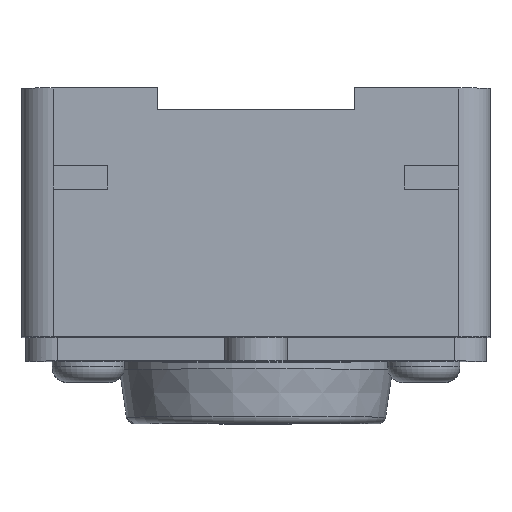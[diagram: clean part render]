
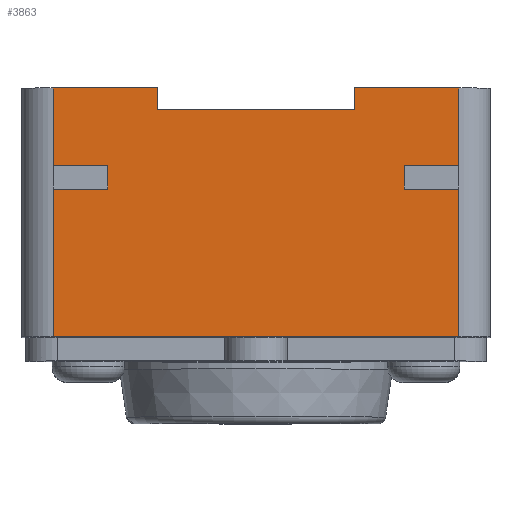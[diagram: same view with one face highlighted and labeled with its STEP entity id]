
A CAD part, top view. The second image highlights one B-rep face of the part: STEP entity #3863.
In plain terms, the highlighted planar face has unit normal (0, 0, 1).
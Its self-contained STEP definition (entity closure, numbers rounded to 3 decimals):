
#3058=DIRECTION('',(-1.,0.,0.));
#3059=VECTOR('',#3058,1.335);
#3060=CARTESIAN_POINT('',(2.6,3.5,3.));
#3061=LINE('',#3060,#3059);
#3127=DIRECTION('',(-1.,0.,0.));
#3128=VECTOR('',#3127,2.53);
#3129=CARTESIAN_POINT('',(1.265,3.23,3.));
#3130=LINE('',#3129,#3128);
#3151=DIRECTION('',(0.,-1.,0.));
#3152=VECTOR('',#3151,0.27);
#3153=CARTESIAN_POINT('',(1.265,3.5,3.));
#3154=LINE('',#3153,#3152);
#3155=DIRECTION('',(0.,-1.,0.));
#3156=VECTOR('',#3155,1.);
#3157=CARTESIAN_POINT('',(2.6,3.5,3.));
#3158=LINE('',#3157,#3156);
#3159=DIRECTION('',(1.,0.,0.));
#3160=VECTOR('',#3159,0.7);
#3161=CARTESIAN_POINT('',(1.9,2.2,3.));
#3162=LINE('',#3161,#3160);
#3163=DIRECTION('',(0.,-1.,0.));
#3164=VECTOR('',#3163,1.89);
#3165=CARTESIAN_POINT('',(2.6,2.2,3.));
#3166=LINE('',#3165,#3164);
#3167=DIRECTION('',(-1.,0.,0.));
#3168=VECTOR('',#3167,5.2);
#3169=CARTESIAN_POINT('',(2.6,0.31,3.));
#3170=LINE('',#3169,#3168);
#3171=DIRECTION('',(1.,0.,0.));
#3172=VECTOR('',#3171,0.7);
#3173=CARTESIAN_POINT('',(-2.6,2.5,3.));
#3174=LINE('',#3173,#3172);
#3175=DIRECTION('',(0.,-1.,0.));
#3176=VECTOR('',#3175,0.3);
#3177=CARTESIAN_POINT('',(-1.9,2.5,3.));
#3178=LINE('',#3177,#3176);
#3183=DIRECTION('',(-1.,0.,0.));
#3184=VECTOR('',#3183,0.7);
#3185=CARTESIAN_POINT('',(-1.9,2.2,3.));
#3186=LINE('',#3185,#3184);
#3203=DIRECTION('',(0.,-1.,0.));
#3204=VECTOR('',#3203,1.89);
#3205=CARTESIAN_POINT('',(-2.6,2.2,3.));
#3206=LINE('',#3205,#3204);
#3207=DIRECTION('',(0.,-1.,0.));
#3208=VECTOR('',#3207,1.);
#3209=CARTESIAN_POINT('',(-2.6,3.5,3.));
#3210=LINE('',#3209,#3208);
#3249=DIRECTION('',(0.,1.,0.));
#3250=VECTOR('',#3249,0.3);
#3251=CARTESIAN_POINT('',(1.9,2.2,3.));
#3252=LINE('',#3251,#3250);
#3265=DIRECTION('',(1.,0.,0.));
#3266=VECTOR('',#3265,0.7);
#3267=CARTESIAN_POINT('',(1.9,2.5,3.));
#3268=LINE('',#3267,#3266);
#3362=DIRECTION('',(-1.,0.,0.));
#3363=VECTOR('',#3362,1.335);
#3364=CARTESIAN_POINT('',(-1.265,3.5,3.));
#3365=LINE('',#3364,#3363);
#3379=DIRECTION('',(0.,1.,0.));
#3380=VECTOR('',#3379,0.27);
#3381=CARTESIAN_POINT('',(-1.265,3.23,3.));
#3382=LINE('',#3381,#3380);
#3572=CARTESIAN_POINT('',(2.6,0.31,3.));
#3574=VERTEX_POINT('',#3572);
#3585=CARTESIAN_POINT('',(-2.6,0.31,3.));
#3587=VERTEX_POINT('',#3585);
#3590=CARTESIAN_POINT('',(2.6,2.5,3.));
#3591=CARTESIAN_POINT('',(2.6,2.2,3.));
#3592=VERTEX_POINT('',#3590);
#3593=VERTEX_POINT('',#3591);
#3594=CARTESIAN_POINT('',(2.6,3.5,3.));
#3595=VERTEX_POINT('',#3594);
#3602=CARTESIAN_POINT('',(-2.6,2.5,3.));
#3603=CARTESIAN_POINT('',(-1.9,2.5,3.));
#3604=VERTEX_POINT('',#3602);
#3605=VERTEX_POINT('',#3603);
#3606=CARTESIAN_POINT('',(1.265,3.23,3.));
#3607=CARTESIAN_POINT('',(-1.265,3.23,3.));
#3608=VERTEX_POINT('',#3606);
#3609=VERTEX_POINT('',#3607);
#3610=CARTESIAN_POINT('',(1.265,3.5,3.));
#3611=VERTEX_POINT('',#3610);
#3612=CARTESIAN_POINT('',(1.9,2.2,3.));
#3613=VERTEX_POINT('',#3612);
#3616=CARTESIAN_POINT('',(-1.9,2.2,3.));
#3617=VERTEX_POINT('',#3616);
#3620=CARTESIAN_POINT('',(-2.6,2.2,3.));
#3621=VERTEX_POINT('',#3620);
#3628=CARTESIAN_POINT('',(-2.6,3.5,3.));
#3629=VERTEX_POINT('',#3628);
#3678=CARTESIAN_POINT('',(-1.265,3.5,3.));
#3679=VERTEX_POINT('',#3678);
#3680=CARTESIAN_POINT('',(1.9,2.5,3.));
#3681=VERTEX_POINT('',#3680);
#3827=CARTESIAN_POINT('',(0.,1.905,3.));
#3828=DIRECTION('',(0.,0.,1.));
#3829=DIRECTION('',(1.,0.,0.));
#3830=AXIS2_PLACEMENT_3D('',#3827,#3828,#3829);
#3831=PLANE('',#3830);
#3833=ORIENTED_EDGE('',*,*,#3832,.F.);
#3835=ORIENTED_EDGE('',*,*,#3834,.F.);
#3837=ORIENTED_EDGE('',*,*,#3836,.F.);
#3839=ORIENTED_EDGE('',*,*,#3838,.F.);
#3840=ORIENTED_EDGE('',*,*,#3797,.F.);
#3841=ORIENTED_EDGE('',*,*,#3821,.F.);
#3842=ORIENTED_EDGE('',*,*,#3712,.F.);
#3844=ORIENTED_EDGE('',*,*,#3843,.T.);
#3846=ORIENTED_EDGE('',*,*,#3845,.F.);
#3848=ORIENTED_EDGE('',*,*,#3847,.F.);
#3850=ORIENTED_EDGE('',*,*,#3849,.T.);
#3852=ORIENTED_EDGE('',*,*,#3851,.T.);
#3854=ORIENTED_EDGE('',*,*,#3853,.T.);
#3856=ORIENTED_EDGE('',*,*,#3855,.F.);
#3858=ORIENTED_EDGE('',*,*,#3857,.F.);
#3860=ORIENTED_EDGE('',*,*,#3859,.F.);
#3861=EDGE_LOOP('',(#3833,#3835,#3837,#3839,#3840,#3841,#3842,#3844,#3846,#3848,
#3850,#3852,#3854,#3856,#3858,#3860));
#3862=FACE_OUTER_BOUND('',#3861,.F.);
#3712=EDGE_CURVE('',#3595,#3611,#3061,.T.);
#3797=EDGE_CURVE('',#3608,#3609,#3130,.T.);
#3821=EDGE_CURVE('',#3611,#3608,#3154,.T.);
#3832=EDGE_CURVE('',#3604,#3605,#3174,.T.);
#3834=EDGE_CURVE('',#3629,#3604,#3210,.T.);
#3836=EDGE_CURVE('',#3679,#3629,#3365,.T.);
#3838=EDGE_CURVE('',#3609,#3679,#3382,.T.);
#3843=EDGE_CURVE('',#3595,#3592,#3158,.T.);
#3845=EDGE_CURVE('',#3681,#3592,#3268,.T.);
#3847=EDGE_CURVE('',#3613,#3681,#3252,.T.);
#3849=EDGE_CURVE('',#3613,#3593,#3162,.T.);
#3851=EDGE_CURVE('',#3593,#3574,#3166,.T.);
#3853=EDGE_CURVE('',#3574,#3587,#3170,.T.);
#3855=EDGE_CURVE('',#3621,#3587,#3206,.T.);
#3857=EDGE_CURVE('',#3617,#3621,#3186,.T.);
#3859=EDGE_CURVE('',#3605,#3617,#3178,.T.);
#3863=ADVANCED_FACE('',(#3862),#3831,.T.);
